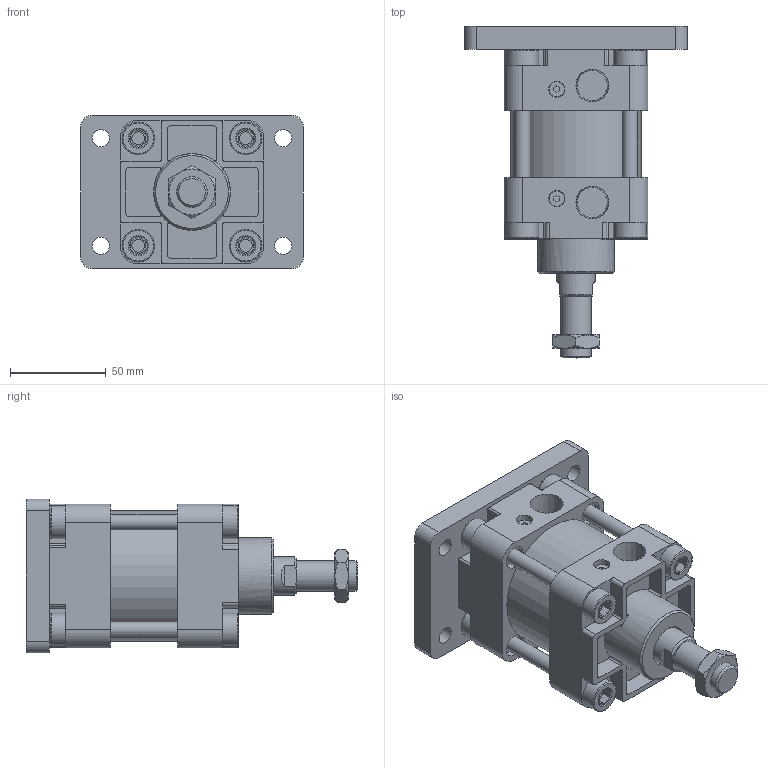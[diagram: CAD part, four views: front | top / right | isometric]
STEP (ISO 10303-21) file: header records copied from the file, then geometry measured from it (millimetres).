
FILE_DESCRIPTION(/* description */ ('Unknown'),/* implementation_level */ '2;1');
FILE_NAME(/* name */ 'WA63-0-FB',/* time_stamp */ '2026-07-17T16:54:04+08:00',/* author */ ('Unknown'),/* organization */ ('Unknown'),/* preprocessor_version */ 'ST-DEVELOPER v16.7',/* originating_system */ 'DEX',/* authorisation */ $);
FILE_SCHEMA (('CONFIG_CONTROL_DESIGN'));
Length unit declared in the file: millimetre
Products named in the file (8): WA63-0-FB; WA63_後; WA63_心軸活efs; WA63_鋁; WA63_前; M16-1.5P-8_螺; WA63_T´U¤útionRefs; WA63_FA
Assembly tree (10 placements, depth 2):
  WA63-0-FB
    WA63_後
    WA63_心軸活efs
    WA63_鋁
    WA63_前
    M16-1.5P-8_螺
    WA63_T´U¤útionRefs  x4
    WA63_FA
Bounding box: 116 x 173 x 80 mm (x, y, z)
Volume: 545823.5 mm3; surface area: 139026.2 mm2
Topology: 10 solids, 10 shells, 389 faces, 935 edges, 627 vertices
Faces by surface type: plane 215, cylinder 137, cone 29, torus 8
Full cylindrical faces by diameter (mm): 6.8 x8, 8 x6, 8.5 x2, 9 x8, 12 x8, 12.5 x8, 14 x4, 14.5 x1, 15.806 x2, 16 x1, 17 x8, 20 x2, 40 x1, 42 x1, 62.5 x1, 63 x3, 68 x1
Entity records: 10127 total; most frequent: CARTESIAN_POINT 1489, DIRECTION 1470, ORIENTED_EDGE 1278, EDGE_CURVE 639, AXIS2_PLACEMENT_3D 564, VERTEX_POINT 455, EDGE_LOOP 410, FACE_BOUND 410
